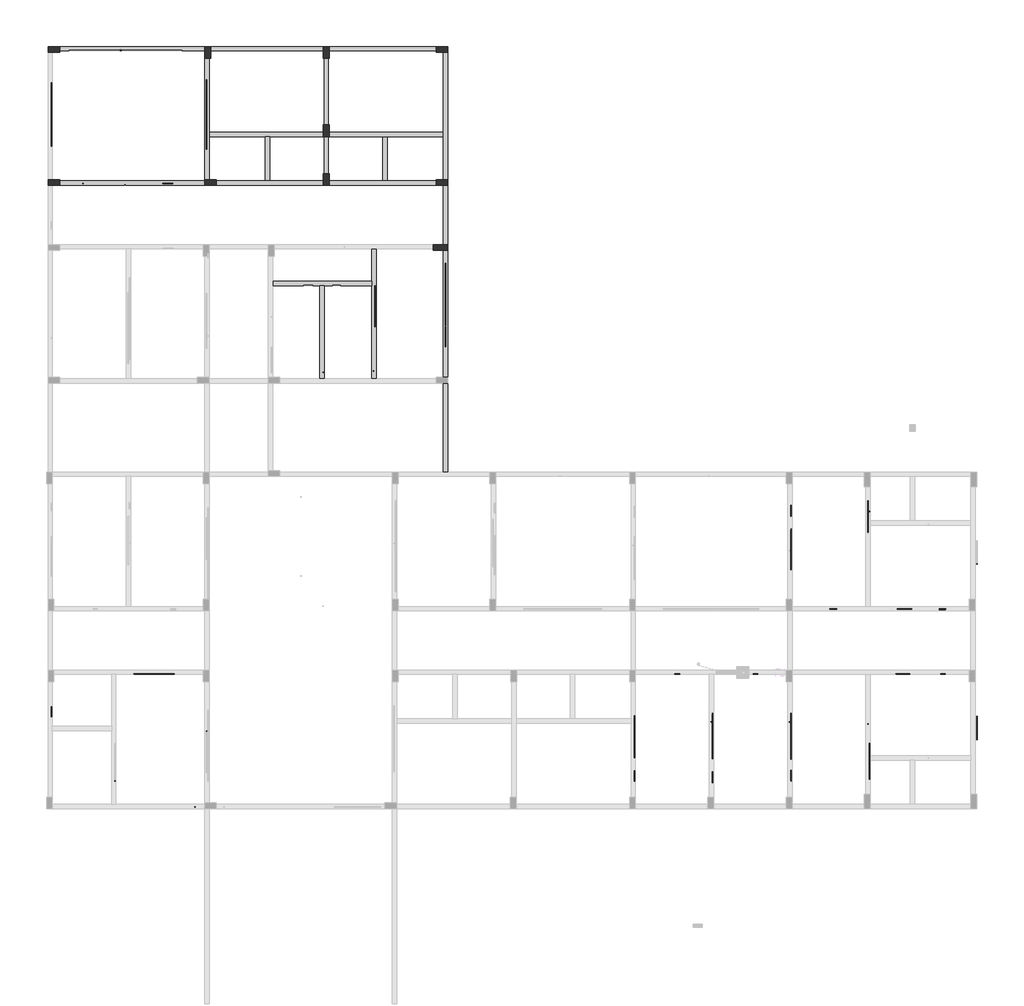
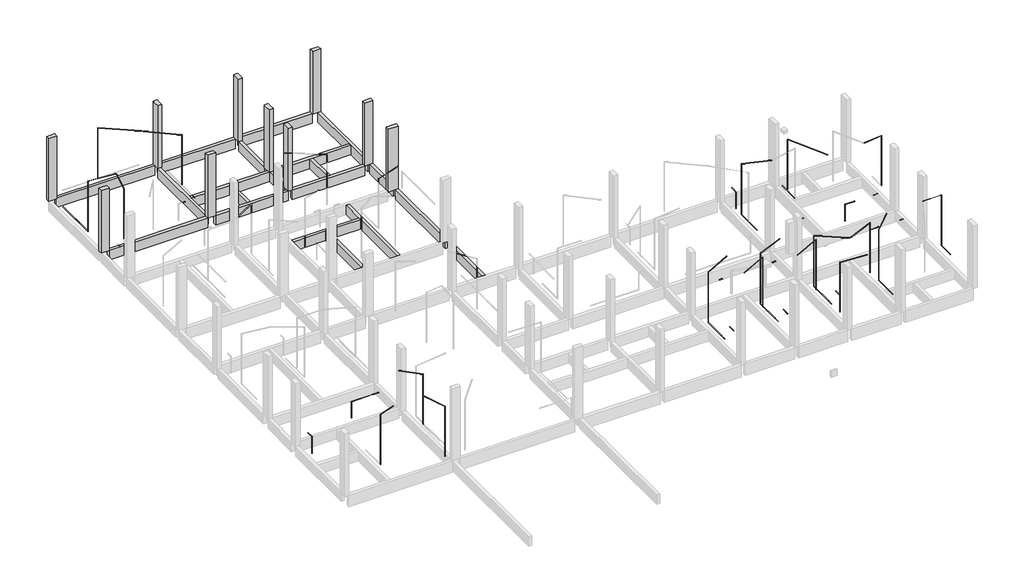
# One storey, part 3 of 4: 45 cable carrier segments, 11 beams, 10 columns.
"""IFC4 building model written with IfcOpenShell, lengths in millimetres."""

from ifc_helpers import new_model, si_unit, frame, origin, place, context, project, spatial, polyline, outline, extrude, faceted_brep, transform, mapped, element, save
from components import el1_el100_e79a3072, el10_el113_36675287, el14_el114_702ad4f7, el2_el101_1b8d6740, el24_el118_48040a78, el25_el12_05267416, el26_el121_f01eb2d3, el29_el122_15501611, el3_el102_fbad8927, el30_el123_b5c9b7e5, el31_el124_8efc11f5, el32_el125_98d39b4c, el35_el129_0dc89ffc, el39_el13_a97d6b42, el4_el103_70ae6426, el40_el131_f582b128, el41_el132_4a7a4d96, el42_el133_466f9d78, el43_el134_258edfdb, el47_el135_66c54992, el48_el139_08f326e0, el5_el104_b8869724, el55_el141_fa197d17, el56_el142_58090826, el57_el143_878d4ac9, el58_el144_c64af32f, el59_el145_87ae16ea, el6_el105_977d746f, el60_el15_bd98858c, el61_el150_23043934, el65_el151_dc321eb8, el67_el152_cc463a7e, el68_el153_5135b2cc, el69_el154_8347e9b6, el7_el109_4a5f97cc, el70_el155_bf3edad0, el73_el16_b7d81b3a, el8_el11_be719dc9, el81_el17_a5bba89e, el82_el172_23e03074, el83_el173_6038ebd6, el84_el174_77af81ce, el85_el175_2161bc5c, el88_el176_837a4fff, el9_el110_13ecc65c

model = new_model("IFC4")

# Units and contexts
model_context = context("Model", 3, world=origin())
ifc_project = project(units=[si_unit("LENGTHUNIT", "METRE", prefix="MILLI")], contexts=[model_context])

# Site, building, storey
site = spatial("IfcSite", under=ifc_project)
building = spatial("IfcBuilding", under=site)
storey = spatial("IfcBuildingStorey", under=building, Name="BALDRAME", Elevation=1500.0)

# Beams
placement = place(None, origin())
element("IfcBeam", 1, ObjectType="TQS - Viga retangular : 15,0 x 50,0", at=placement, inside=storey, context=model_context, shape_type="SweptSolid", body=[
    extrude(outline(polyline([(13130.0, 25800.0), (13130.0, 25650.0), (9515.0, 25650.0), (9515.0, 25800.0), (13130.0, 25800.0)])), frame((0.0, 0.0, 1000.0), z_axis=(0.0, 0.0, 1.0), x_axis=(1.0, 0.0, 0.0)), (0.0, 0.0, 1.0), 500.0),
    extrude(outline(polyline([(5300.0, 25800.0), (5300.0, 25650.0), (400.0, 25650.0), (400.0, 25800.0), (5300.0, 25800.0)])), frame((0.0, 0.0, 1000.0), z_axis=(0.0, 0.0, 1.0), x_axis=(1.0, 0.0, 0.0)), (0.0, 0.0, 1.0), 500.0),
    extrude(outline(polyline([(5500.0, 25650.0), (5500.0, 25800.0), (9315.0, 25800.0), (9315.0, 25650.0), (5500.0, 25650.0)])), frame((0.0, 0.0, 1000.0), z_axis=(0.0, 0.0, 1.0), x_axis=(1.0, 0.0, 0.0)), (0.0, 0.0, 1.0), 500.0),
])
element("IfcBeam", 2, ObjectType="TQS - Viga retangular : 15,0 x 50,0", at=placement, inside=storey, context=model_context, shape_type="Brep", body=[
    faceted_brep([(13130.0, 21100.0, 1500.0), (13130.0, 21250.0, 1500.0), (11480.0, 21250.0, 1500.0), (11330.0, 21250.0, 1500.0), (9515.0, 21250.0, 1500.0), (9515.0, 21100.0, 1500.0), (13130.0, 21100.0, 1000.0), (9515.0, 21100.0, 1000.0), (13130.0, 21250.0, 1000.0), (9515.0, 21250.0, 1000.0), (11330.0, 21250.0, 1000.0), (11480.0, 21250.0, 1000.0)], [[[0, 1, 2, 3, 4, 5]], [[6, 0, 5, 7]], [[8, 6, 7, 9, 10, 11]], [[1, 8, 11, 10, 9, 4, 3, 2]], [[1, 0, 6, 8]], [[5, 4, 9, 7]]]),
    faceted_brep([(400.0, 21100.0, 1500.0), (400.0, 21250.0, 1500.0), (400.0, 21250.0, 1000.0), (400.0, 21100.0, 1000.0), (5300.0, 21250.0, 1500.0), (5300.0, 21100.0, 1500.0), (5300.0, 21100.0, 1000.0), (5300.0, 21250.0, 1000.0)], [[[0, 1, 2, 3]], [[4, 5, 6, 7]], [[1, 0, 5, 4]], [[0, 3, 6, 5]], [[3, 2, 7, 6]], [[2, 1, 4, 7]]]),
    faceted_brep([(5700.0, 21100.0, 1500.0), (5700.0, 21250.0, 1500.0), (5700.0, 21250.0, 1000.0), (5700.0, 21100.0, 1000.0), (9315.0, 21250.0, 1500.0), (9315.0, 21100.0, 1500.0), (9315.0, 21100.0, 1000.0), (9315.0, 21250.0, 1000.0), (7500.0, 21250.0, 1500.0), (7350.0, 21250.0, 1500.0), (7350.0, 21250.0, 1000.0), (7500.0, 21250.0, 1000.0)], [[[0, 1, 2, 3]], [[4, 5, 6, 7]], [[1, 0, 5, 4, 8, 9]], [[0, 3, 6, 5]], [[3, 2, 10, 11, 7, 6]], [[2, 1, 9, 8, 4, 7, 11, 10]]]),
])
element("IfcBeam", 3, ObjectType="TQS - Viga retangular : 15,0 x 50,0", at=placement, inside=storey, context=model_context, shape_type="Brep", body=[
    faceted_brep([(5300.0, 21300.0, 1500.0), (5450.0, 21300.0, 1500.0), (5450.0, 22750.0, 1500.0), (5450.0, 22900.0, 1500.0), (5450.0, 25400.0, 1500.0), (5300.0, 25400.0, 1500.0), (5450.0, 21300.0, 1000.0), (5450.0, 22750.0, 1000.0), (5450.0, 22900.0, 1000.0), (5450.0, 25400.0, 1000.0), (5300.0, 21300.0, 1000.0), (5300.0, 25400.0, 1000.0)], [[[0, 1, 2, 3, 4, 5]], [[1, 6, 7, 8, 9, 4, 3, 2]], [[6, 10, 11, 9, 8, 7]], [[10, 0, 5, 11]], [[1, 0, 10, 6]], [[5, 4, 9, 11]]]),
])
element("IfcBeam", 4, ObjectType="TQS - Viga retangular : 15,0 x 50,0", at=placement, inside=storey, context=model_context, shape_type="SweptSolid", body=[
    extrude(outline(polyline([(9340.0, 25400.0), (9490.0, 25400.0), (9490.0, 23150.0), (9340.0, 23150.0), (9340.0, 25400.0)])), frame((0.0, 0.0, 1000.0), z_axis=(0.0, 0.0, 1.0), x_axis=(1.0, 0.0, 0.0)), (0.0, 0.0, 1.0), 500.0),
    extrude(outline(polyline([(9490.0, 21500.0), (9340.0, 21500.0), (9340.0, 22750.0), (9490.0, 22750.0), (9490.0, 21500.0)])), frame((0.0, 0.0, 1000.0), z_axis=(0.0, 0.0, 1.0), x_axis=(1.0, 0.0, 0.0)), (0.0, 0.0, 1.0), 500.0),
])
element("IfcBeam", 5, ObjectType="TQS - Viga retangular : 15,0 x 50,0", at=placement, inside=storey, context=model_context, shape_type="Brep", body=[
    faceted_brep([(13380.0, 21300.0, 1500.0), (13530.0, 21300.0, 1500.0), (13530.0, 25600.0, 1500.0), (13380.0, 25600.0, 1500.0), (13380.0, 22900.0, 1500.0), (13380.0, 22750.0, 1500.0), (13530.0, 21300.0, 1000.0), (13530.0, 25600.0, 1000.0), (13380.0, 21300.0, 1000.0), (13380.0, 22750.0, 1000.0), (13380.0, 22900.0, 1000.0), (13380.0, 25600.0, 1000.0)], [[[0, 1, 2, 3, 4, 5]], [[1, 6, 7, 2]], [[6, 8, 9, 10, 11, 7]], [[8, 0, 5, 4, 3, 11, 10, 9]], [[1, 0, 8, 6]], [[3, 2, 7, 11]]]),
    faceted_brep([(13380.0, 14400.0, 1500.0), (13530.0, 14400.0, 1500.0), (13530.0, 14400.0, 1000.0), (13380.0, 14400.0, 1000.0), (13380.0, 11400.0, 1500.0), (13530.0, 11400.0, 1500.0), (13530.0, 11400.0, 1000.0), (13380.0, 11400.0, 1000.0)], [[[0, 1, 2, 3]], [[1, 0, 4, 5]], [[2, 1, 5, 6]], [[3, 2, 6, 7]], [[0, 3, 7, 4]], [[5, 4, 7, 6]]]),
    faceted_brep([(13530.0, 14600.0, 1500.0), (13380.0, 14600.0, 1500.0), (13380.0, 14600.0, 1000.0), (13530.0, 14600.0, 1000.0), (13380.0, 18900.0, 1500.0), (13530.0, 18900.0, 1500.0), (13530.0, 18900.0, 1000.0), (13380.0, 18900.0, 1000.0)], [[[0, 1, 2, 3]], [[4, 5, 6, 7]], [[1, 0, 5, 4]], [[0, 3, 6, 5]], [[3, 2, 7, 6]], [[2, 1, 4, 7]]]),
    faceted_brep([(13530.0, 19100.0, 1500.0), (13380.0, 19100.0, 1500.0), (13380.0, 19100.0, 1000.0), (13530.0, 19100.0, 1000.0), (13380.0, 21100.0, 1500.0), (13530.0, 21100.0, 1500.0), (13530.0, 21100.0, 1000.0), (13380.0, 21100.0, 1000.0)], [[[0, 1, 2, 3]], [[4, 5, 6, 7]], [[1, 0, 5, 4]], [[0, 3, 6, 5]], [[3, 2, 7, 6]], [[2, 1, 4, 7]]]),
])
element("IfcBeam", 6, ObjectType="TQS - Viga retangular : 15,0 x 50,0", at=placement, inside=storey, context=model_context, shape_type="Brep", body=[
    faceted_brep([(9515.0, 22900.0, 1500.0), (9515.0, 22750.0, 1500.0), (11330.0, 22750.0, 1500.0), (11480.0, 22750.0, 1500.0), (13380.0, 22750.0, 1500.0), (13380.0, 22900.0, 1500.0), (9515.0, 22750.0, 1000.0), (11330.0, 22750.0, 1000.0), (11480.0, 22750.0, 1000.0), (13380.0, 22750.0, 1000.0), (9515.0, 22900.0, 1000.0), (13380.0, 22900.0, 1000.0)], [[[0, 1, 2, 3, 4, 5]], [[1, 6, 7, 8, 9, 4, 3, 2]], [[6, 10, 11, 9, 8, 7]], [[10, 0, 5, 11]], [[1, 0, 10, 6]], [[5, 4, 9, 11]]]),
    faceted_brep([(9315.0, 22900.0, 1500.0), (9315.0, 22750.0, 1500.0), (9315.0, 22750.0, 1000.0), (9315.0, 22900.0, 1000.0), (5450.0, 22900.0, 1500.0), (5450.0, 22750.0, 1500.0), (7350.0, 22750.0, 1500.0), (7500.0, 22750.0, 1500.0), (5450.0, 22750.0, 1000.0), (7350.0, 22750.0, 1000.0), (7500.0, 22750.0, 1000.0), (5450.0, 22900.0, 1000.0)], [[[0, 1, 2, 3]], [[1, 0, 4, 5, 6, 7]], [[2, 1, 7, 6, 5, 8, 9, 10]], [[3, 2, 10, 9, 8, 11]], [[0, 3, 11, 4]], [[5, 4, 11, 8]]]),
])
element("IfcBeam", 7, ObjectType="TQS - Viga retangular : 15,0 x 50,0", at=placement, inside=storey, context=model_context, shape_type="SweptSolid", body=[
    extrude(outline(polyline([(7500.0, 21250.0), (7350.0, 21250.0), (7350.0, 22750.0), (7500.0, 22750.0), (7500.0, 21250.0)])), frame((0.0, 0.0, 1000.0), z_axis=(0.0, 0.0, 1.0), x_axis=(1.0, 0.0, 0.0)), (0.0, 0.0, 1.0), 500.0),
])
element("IfcBeam", 8, ObjectType="TQS - Viga retangular : 15,0 x 50,0", at=placement, inside=storey, context=model_context, shape_type="SweptSolid", body=[
    extrude(outline(polyline([(11480.0, 21250.0), (11330.0, 21250.0), (11330.0, 22750.0), (11480.0, 22750.0), (11480.0, 21250.0)])), frame((0.0, 0.0, 1000.0), z_axis=(0.0, 0.0, 1.0), x_axis=(1.0, 0.0, 0.0)), (0.0, 0.0, 1.0), 500.0),
])
element("IfcBeam", 9, ObjectType="TQS - Viga retangular : 15,0 x 50,0", at=placement, inside=storey, context=model_context, shape_type="Brep", body=[
    faceted_brep([(11100.0, 18950.0, 1500.0), (10950.0, 18950.0, 1500.0), (10950.0, 17850.0, 1500.0), (10950.0, 17700.0, 1500.0), (10950.0, 14550.0, 1500.0), (11100.0, 14550.0, 1500.0), (11100.0, 18950.0, 1000.0), (11100.0, 14550.0, 1000.0), (10950.0, 18950.0, 1000.0), (10950.0, 14550.0, 1000.0), (10950.0, 17700.0, 1000.0), (10950.0, 17850.0, 1000.0)], [[[0, 1, 2, 3, 4, 5]], [[6, 0, 5, 7]], [[8, 6, 7, 9, 10, 11]], [[1, 8, 11, 10, 9, 4, 3, 2]], [[1, 0, 6, 8]], [[5, 4, 9, 7]]]),
])
element("IfcBeam", 10, ObjectType="TQS - Viga retangular : 15,0 x 50,0", at=placement, inside=storey, context=model_context, shape_type="Brep", body=[
    faceted_brep([(7600.0, 17850.0, 1500.0), (7600.0, 17700.0, 1500.0), (9200.0, 17700.0, 1500.0), (9350.0, 17700.0, 1500.0), (10950.0, 17700.0, 1500.0), (10950.0, 17850.0, 1500.0), (7600.0, 17700.0, 1000.0), (9200.0, 17700.0, 1000.0), (9350.0, 17700.0, 1000.0), (10950.0, 17700.0, 1000.0), (7600.0, 17850.0, 1000.0), (10950.0, 17850.0, 1000.0)], [[[0, 1, 2, 3, 4, 5]], [[1, 6, 7, 8, 9, 4, 3, 2]], [[6, 10, 11, 9, 8, 7]], [[10, 0, 5, 11]], [[1, 0, 10, 6]], [[5, 4, 9, 11]]]),
])
element("IfcBeam", 11, ObjectType="TQS - Viga retangular : 15,0 x 50,0", at=placement, inside=storey, context=model_context, shape_type="SweptSolid", body=[
    extrude(outline(polyline([(9350.0, 14550.0), (9200.0, 14550.0), (9200.0, 17700.0), (9350.0, 17700.0), (9350.0, 14550.0)])), frame((0.0, 0.0, 1000.0), z_axis=(0.0, 0.0, 1.0), x_axis=(1.0, 0.0, 0.0)), (0.0, 0.0, 1.0), 500.0),
])

# Cable carrier segments
el1_el100_shape = el1_el100_e79a3072(model_context)
element("IfcCableCarrierSegment", 12, ObjectType="El1 : El100", at=placement, inside=storey, context=model_context, shape_type="MappedRepresentation", body=[
    mapped(el1_el100_shape, transform((0.0, 0.0, 0.0), x_axis=(1.0, 0.0, 0.0), y_axis=(0.0, 1.0, 0.0), z_axis=(0.0, 0.0, 1.0))),
])
el10_el113_shape = el10_el113_36675287(model_context)
element("IfcCableCarrierSegment", 13, ObjectType="El10 : El113", at=placement, inside=storey, context=model_context, shape_type="MappedRepresentation", body=[
    mapped(el10_el113_shape, transform((0.0, 0.0, 0.0), x_axis=(1.0, 0.0, 0.0), y_axis=(0.0, 1.0, 0.0), z_axis=(0.0, 0.0, 1.0))),
])
el14_el114_shape = el14_el114_702ad4f7(model_context)
element("IfcCableCarrierSegment", 14, ObjectType="El14 : El114", at=placement, inside=storey, context=model_context, shape_type="MappedRepresentation", body=[
    mapped(el14_el114_shape, transform((0.0, 0.0, 0.0), x_axis=(1.0, 0.0, 0.0), y_axis=(0.0, 1.0, 0.0), z_axis=(0.0, 0.0, 1.0))),
])
el2_el101_shape = el2_el101_1b8d6740(model_context)
element("IfcCableCarrierSegment", 15, ObjectType="El2 : El101", at=placement, inside=storey, context=model_context, shape_type="MappedRepresentation", body=[
    mapped(el2_el101_shape, transform((0.0, 0.0, 0.0), x_axis=(1.0, 0.0, 0.0), y_axis=(0.0, 1.0, 0.0), z_axis=(0.0, 0.0, 1.0))),
])
el24_el118_shape = el24_el118_48040a78(model_context)
element("IfcCableCarrierSegment", 16, ObjectType="El24 : El118", at=placement, inside=storey, context=model_context, shape_type="MappedRepresentation", body=[
    mapped(el24_el118_shape, transform((0.0, 0.0, 0.0), x_axis=(1.0, 0.0, 0.0), y_axis=(0.0, 1.0, 0.0), z_axis=(0.0, 0.0, 1.0))),
])
el25_el12_shape = el25_el12_05267416(model_context)
element("IfcCableCarrierSegment", 17, ObjectType="El25 : El12", at=placement, inside=storey, context=model_context, shape_type="MappedRepresentation", body=[
    mapped(el25_el12_shape, transform((0.0, 0.0, 0.0), x_axis=(1.0, 0.0, 0.0), y_axis=(0.0, 1.0, 0.0), z_axis=(0.0, 0.0, 1.0))),
])
el26_el121_shape = el26_el121_f01eb2d3(model_context)
element("IfcCableCarrierSegment", 18, ObjectType="El26 : El121", at=placement, inside=storey, context=model_context, shape_type="MappedRepresentation", body=[
    mapped(el26_el121_shape, transform((0.0, 0.0, 0.0), x_axis=(1.0, 0.0, 0.0), y_axis=(0.0, 1.0, 0.0), z_axis=(0.0, 0.0, 1.0))),
])
el29_el122_shape = el29_el122_15501611(model_context)
element("IfcCableCarrierSegment", 19, ObjectType="El29 : El122", at=placement, inside=storey, context=model_context, shape_type="MappedRepresentation", body=[
    mapped(el29_el122_shape, transform((0.0, 0.0, 0.0), x_axis=(1.0, 0.0, 0.0), y_axis=(0.0, 1.0, 0.0), z_axis=(0.0, 0.0, 1.0))),
])
el3_el102_shape = el3_el102_fbad8927(model_context)
element("IfcCableCarrierSegment", 20, ObjectType="El3 : El102", at=placement, inside=storey, context=model_context, shape_type="MappedRepresentation", body=[
    mapped(el3_el102_shape, transform((0.0, 0.0, 0.0), x_axis=(1.0, 0.0, 0.0), y_axis=(0.0, 1.0, 0.0), z_axis=(0.0, 0.0, 1.0))),
])
el30_el123_shape = el30_el123_b5c9b7e5(model_context)
element("IfcCableCarrierSegment", 21, ObjectType="El30 : El123", at=placement, inside=storey, context=model_context, shape_type="MappedRepresentation", body=[
    mapped(el30_el123_shape, transform((0.0, 0.0, 0.0), x_axis=(1.0, 0.0, 0.0), y_axis=(0.0, 1.0, 0.0), z_axis=(0.0, 0.0, 1.0))),
])
el31_el124_shape = el31_el124_8efc11f5(model_context)
element("IfcCableCarrierSegment", 22, ObjectType="El31 : El124", at=placement, inside=storey, context=model_context, shape_type="MappedRepresentation", body=[
    mapped(el31_el124_shape, transform((0.0, 0.0, 0.0), x_axis=(1.0, 0.0, 0.0), y_axis=(0.0, 1.0, 0.0), z_axis=(0.0, 0.0, 1.0))),
])
el32_el125_shape = el32_el125_98d39b4c(model_context)
element("IfcCableCarrierSegment", 23, ObjectType="El32 : El125", at=placement, inside=storey, context=model_context, shape_type="MappedRepresentation", body=[
    mapped(el32_el125_shape, transform((0.0, 0.0, 0.0), x_axis=(1.0, 0.0, 0.0), y_axis=(0.0, 1.0, 0.0), z_axis=(0.0, 0.0, 1.0))),
])
el35_el129_shape = el35_el129_0dc89ffc(model_context)
element("IfcCableCarrierSegment", 24, ObjectType="El35 : El129", at=placement, inside=storey, context=model_context, shape_type="MappedRepresentation", body=[
    mapped(el35_el129_shape, transform((0.0, 0.0, 0.0), x_axis=(1.0, 0.0, 0.0), y_axis=(0.0, 1.0, 0.0), z_axis=(0.0, 0.0, 1.0))),
])
el39_el13_shape = el39_el13_a97d6b42(model_context)
element("IfcCableCarrierSegment", 25, ObjectType="El39 : El13", at=placement, inside=storey, context=model_context, shape_type="MappedRepresentation", body=[
    mapped(el39_el13_shape, transform((0.0, 0.0, 0.0), x_axis=(1.0, 0.0, 0.0), y_axis=(0.0, 1.0, 0.0), z_axis=(0.0, 0.0, 1.0))),
])
el4_el103_shape = el4_el103_70ae6426(model_context)
element("IfcCableCarrierSegment", 26, ObjectType="El4 : El103", at=placement, inside=storey, context=model_context, shape_type="MappedRepresentation", body=[
    mapped(el4_el103_shape, transform((0.0, 0.0, 0.0), x_axis=(1.0, 0.0, 0.0), y_axis=(0.0, 1.0, 0.0), z_axis=(0.0, 0.0, 1.0))),
])
el40_el131_shape = el40_el131_f582b128(model_context)
element("IfcCableCarrierSegment", 27, ObjectType="El40 : El131", at=placement, inside=storey, context=model_context, shape_type="MappedRepresentation", body=[
    mapped(el40_el131_shape, transform((0.0, 0.0, 0.0), x_axis=(1.0, 0.0, 0.0), y_axis=(0.0, 1.0, 0.0), z_axis=(0.0, 0.0, 1.0))),
])
el41_el132_shape = el41_el132_4a7a4d96(model_context)
element("IfcCableCarrierSegment", 28, ObjectType="El41 : El132", at=placement, inside=storey, context=model_context, shape_type="MappedRepresentation", body=[
    mapped(el41_el132_shape, transform((0.0, 0.0, 0.0), x_axis=(1.0, 0.0, 0.0), y_axis=(0.0, 1.0, 0.0), z_axis=(0.0, 0.0, 1.0))),
])
el42_el133_shape = el42_el133_466f9d78(model_context)
element("IfcCableCarrierSegment", 29, ObjectType="El42 : El133", at=placement, inside=storey, context=model_context, shape_type="MappedRepresentation", body=[
    mapped(el42_el133_shape, transform((0.0, 0.0, 0.0), x_axis=(1.0, 0.0, 0.0), y_axis=(0.0, 1.0, 0.0), z_axis=(0.0, 0.0, 1.0))),
])
el43_el134_shape = el43_el134_258edfdb(model_context)
element("IfcCableCarrierSegment", 30, ObjectType="El43 : El134", at=placement, inside=storey, context=model_context, shape_type="MappedRepresentation", body=[
    mapped(el43_el134_shape, transform((0.0, 0.0, 0.0), x_axis=(1.0, 0.0, 0.0), y_axis=(0.0, 1.0, 0.0), z_axis=(0.0, 0.0, 1.0))),
])
el47_el135_shape = el47_el135_66c54992(model_context)
element("IfcCableCarrierSegment", 31, ObjectType="El47 : El135", at=placement, inside=storey, context=model_context, shape_type="MappedRepresentation", body=[
    mapped(el47_el135_shape, transform((0.0, 0.0, 0.0), x_axis=(1.0, 0.0, 0.0), y_axis=(0.0, 1.0, 0.0), z_axis=(0.0, 0.0, 1.0))),
])
el48_el139_shape = el48_el139_08f326e0(model_context)
element("IfcCableCarrierSegment", 32, ObjectType="El48 : El139", at=placement, inside=storey, context=model_context, shape_type="MappedRepresentation", body=[
    mapped(el48_el139_shape, transform((0.0, 0.0, 0.0), x_axis=(1.0, 0.0, 0.0), y_axis=(0.0, 1.0, 0.0), z_axis=(0.0, 0.0, 1.0))),
])
el5_el104_shape = el5_el104_b8869724(model_context)
element("IfcCableCarrierSegment", 33, ObjectType="El5 : El104", at=placement, inside=storey, context=model_context, shape_type="MappedRepresentation", body=[
    mapped(el5_el104_shape, transform((0.0, 0.0, 0.0), x_axis=(1.0, 0.0, 0.0), y_axis=(0.0, 1.0, 0.0), z_axis=(0.0, 0.0, 1.0))),
])
el55_el141_shape = el55_el141_fa197d17(model_context)
element("IfcCableCarrierSegment", 34, ObjectType="El55 : El141", at=placement, inside=storey, context=model_context, shape_type="MappedRepresentation", body=[
    mapped(el55_el141_shape, transform((0.0, 0.0, 0.0), x_axis=(1.0, 0.0, 0.0), y_axis=(0.0, 1.0, 0.0), z_axis=(0.0, 0.0, 1.0))),
])
el56_el142_shape = el56_el142_58090826(model_context)
element("IfcCableCarrierSegment", 35, ObjectType="El56 : El142", at=placement, inside=storey, context=model_context, shape_type="MappedRepresentation", body=[
    mapped(el56_el142_shape, transform((0.0, 0.0, 0.0), x_axis=(1.0, 0.0, 0.0), y_axis=(0.0, 1.0, 0.0), z_axis=(0.0, 0.0, 1.0))),
])
el57_el143_shape = el57_el143_878d4ac9(model_context)
element("IfcCableCarrierSegment", 36, ObjectType="El57 : El143", at=placement, inside=storey, context=model_context, shape_type="MappedRepresentation", body=[
    mapped(el57_el143_shape, transform((0.0, 0.0, 0.0), x_axis=(1.0, 0.0, 0.0), y_axis=(0.0, 1.0, 0.0), z_axis=(0.0, 0.0, 1.0))),
])
el58_el144_shape = el58_el144_c64af32f(model_context)
element("IfcCableCarrierSegment", 37, ObjectType="El58 : El144", at=placement, inside=storey, context=model_context, shape_type="MappedRepresentation", body=[
    mapped(el58_el144_shape, transform((0.0, 0.0, 0.0), x_axis=(1.0, 0.0, 0.0), y_axis=(0.0, 1.0, 0.0), z_axis=(0.0, 0.0, 1.0))),
])
el59_el145_shape = el59_el145_87ae16ea(model_context)
element("IfcCableCarrierSegment", 38, ObjectType="El59 : El145", at=placement, inside=storey, context=model_context, shape_type="MappedRepresentation", body=[
    mapped(el59_el145_shape, transform((0.0, 0.0, 0.0), x_axis=(1.0, 0.0, 0.0), y_axis=(0.0, 1.0, 0.0), z_axis=(0.0, 0.0, 1.0))),
])
el6_el105_shape = el6_el105_977d746f(model_context)
element("IfcCableCarrierSegment", 39, ObjectType="El6 : El105", at=placement, inside=storey, context=model_context, shape_type="MappedRepresentation", body=[
    mapped(el6_el105_shape, transform((0.0, 0.0, 0.0), x_axis=(1.0, 0.0, 0.0), y_axis=(0.0, 1.0, 0.0), z_axis=(0.0, 0.0, 1.0))),
])
el60_el15_shape = el60_el15_bd98858c(model_context)
element("IfcCableCarrierSegment", 40, ObjectType="El60 : El15", at=placement, inside=storey, context=model_context, shape_type="MappedRepresentation", body=[
    mapped(el60_el15_shape, transform((0.0, 0.0, 0.0), x_axis=(1.0, 0.0, 0.0), y_axis=(0.0, 1.0, 0.0), z_axis=(0.0, 0.0, 1.0))),
])
el61_el150_shape = el61_el150_23043934(model_context)
element("IfcCableCarrierSegment", 41, ObjectType="El61 : El150", at=placement, inside=storey, context=model_context, shape_type="MappedRepresentation", body=[
    mapped(el61_el150_shape, transform((0.0, 0.0, 0.0), x_axis=(1.0, 0.0, 0.0), y_axis=(0.0, 1.0, 0.0), z_axis=(0.0, 0.0, 1.0))),
])
el65_el151_shape = el65_el151_dc321eb8(model_context)
element("IfcCableCarrierSegment", 42, ObjectType="El65 : El151", at=placement, inside=storey, context=model_context, shape_type="MappedRepresentation", body=[
    mapped(el65_el151_shape, transform((0.0, 0.0, 0.0), x_axis=(1.0, 0.0, 0.0), y_axis=(0.0, 1.0, 0.0), z_axis=(0.0, 0.0, 1.0))),
])
el67_el152_shape = el67_el152_cc463a7e(model_context)
element("IfcCableCarrierSegment", 43, ObjectType="El67 : El152", at=placement, inside=storey, context=model_context, shape_type="MappedRepresentation", body=[
    mapped(el67_el152_shape, transform((0.0, 0.0, 0.0), x_axis=(1.0, 0.0, 0.0), y_axis=(0.0, 1.0, 0.0), z_axis=(0.0, 0.0, 1.0))),
])
el68_el153_shape = el68_el153_5135b2cc(model_context)
element("IfcCableCarrierSegment", 44, ObjectType="El68 : El153", at=placement, inside=storey, context=model_context, shape_type="MappedRepresentation", body=[
    mapped(el68_el153_shape, transform((0.0, 0.0, 0.0), x_axis=(1.0, 0.0, 0.0), y_axis=(0.0, 1.0, 0.0), z_axis=(0.0, 0.0, 1.0))),
])
el69_el154_shape = el69_el154_8347e9b6(model_context)
element("IfcCableCarrierSegment", 45, ObjectType="El69 : El154", at=placement, inside=storey, context=model_context, shape_type="MappedRepresentation", body=[
    mapped(el69_el154_shape, transform((0.0, 0.0, 0.0), x_axis=(1.0, 0.0, 0.0), y_axis=(0.0, 1.0, 0.0), z_axis=(0.0, 0.0, 1.0))),
])
el7_el109_shape = el7_el109_4a5f97cc(model_context)
element("IfcCableCarrierSegment", 46, ObjectType="El7 : El109", at=placement, inside=storey, context=model_context, shape_type="MappedRepresentation", body=[
    mapped(el7_el109_shape, transform((0.0, 0.0, 0.0), x_axis=(1.0, 0.0, 0.0), y_axis=(0.0, 1.0, 0.0), z_axis=(0.0, 0.0, 1.0))),
])
el70_el155_shape = el70_el155_bf3edad0(model_context)
element("IfcCableCarrierSegment", 47, ObjectType="El70 : El155", at=placement, inside=storey, context=model_context, shape_type="MappedRepresentation", body=[
    mapped(el70_el155_shape, transform((0.0, 0.0, 0.0), x_axis=(1.0, 0.0, 0.0), y_axis=(0.0, 1.0, 0.0), z_axis=(0.0, 0.0, 1.0))),
])
el73_el16_shape = el73_el16_b7d81b3a(model_context)
element("IfcCableCarrierSegment", 48, ObjectType="El73 : El16", at=placement, inside=storey, context=model_context, shape_type="MappedRepresentation", body=[
    mapped(el73_el16_shape, transform((0.0, 0.0, 0.0), x_axis=(1.0, 0.0, 0.0), y_axis=(0.0, 1.0, 0.0), z_axis=(0.0, 0.0, 1.0))),
])
el8_el11_shape = el8_el11_be719dc9(model_context)
element("IfcCableCarrierSegment", 49, ObjectType="El8 : El11", at=placement, inside=storey, context=model_context, shape_type="MappedRepresentation", body=[
    mapped(el8_el11_shape, transform((0.0, 0.0, 0.0), x_axis=(1.0, 0.0, 0.0), y_axis=(0.0, 1.0, 0.0), z_axis=(0.0, 0.0, 1.0))),
])
el81_el17_shape = el81_el17_a5bba89e(model_context)
element("IfcCableCarrierSegment", 50, ObjectType="El81 : El17", at=placement, inside=storey, context=model_context, shape_type="MappedRepresentation", body=[
    mapped(el81_el17_shape, transform((0.0, 0.0, 0.0), x_axis=(1.0, 0.0, 0.0), y_axis=(0.0, 1.0, 0.0), z_axis=(0.0, 0.0, 1.0))),
])
el82_el172_shape = el82_el172_23e03074(model_context)
element("IfcCableCarrierSegment", 51, ObjectType="El82 : El172", at=placement, inside=storey, context=model_context, shape_type="MappedRepresentation", body=[
    mapped(el82_el172_shape, transform((0.0, 0.0, 0.0), x_axis=(1.0, 0.0, 0.0), y_axis=(0.0, 1.0, 0.0), z_axis=(0.0, 0.0, 1.0))),
])
el83_el173_shape = el83_el173_6038ebd6(model_context)
element("IfcCableCarrierSegment", 52, ObjectType="El83 : El173", at=placement, inside=storey, context=model_context, shape_type="MappedRepresentation", body=[
    mapped(el83_el173_shape, transform((0.0, 0.0, 0.0), x_axis=(1.0, 0.0, 0.0), y_axis=(0.0, 1.0, 0.0), z_axis=(0.0, 0.0, 1.0))),
])
el84_el174_shape = el84_el174_77af81ce(model_context)
element("IfcCableCarrierSegment", 53, ObjectType="El84 : El174", at=placement, inside=storey, context=model_context, shape_type="MappedRepresentation", body=[
    mapped(el84_el174_shape, transform((0.0, 0.0, 0.0), x_axis=(1.0, 0.0, 0.0), y_axis=(0.0, 1.0, 0.0), z_axis=(0.0, 0.0, 1.0))),
])
el85_el175_shape = el85_el175_2161bc5c(model_context)
element("IfcCableCarrierSegment", 54, ObjectType="El85 : El175", at=placement, inside=storey, context=model_context, shape_type="MappedRepresentation", body=[
    mapped(el85_el175_shape, transform((0.0, 0.0, 0.0), x_axis=(1.0, 0.0, 0.0), y_axis=(0.0, 1.0, 0.0), z_axis=(0.0, 0.0, 1.0))),
])
el88_el176_shape = el88_el176_837a4fff(model_context)
element("IfcCableCarrierSegment", 55, ObjectType="El88 : El176", at=placement, inside=storey, context=model_context, shape_type="MappedRepresentation", body=[
    mapped(el88_el176_shape, transform((0.0, 0.0, 0.0), x_axis=(1.0, 0.0, 0.0), y_axis=(0.0, 1.0, 0.0), z_axis=(0.0, 0.0, 1.0))),
])
el9_el110_shape = el9_el110_13ecc65c(model_context)
element("IfcCableCarrierSegment", 56, ObjectType="El9 : El110", at=placement, inside=storey, context=model_context, shape_type="MappedRepresentation", body=[
    mapped(el9_el110_shape, transform((0.0, 0.0, 0.0), x_axis=(1.0, 0.0, 0.0), y_axis=(0.0, 1.0, 0.0), z_axis=(0.0, 0.0, 1.0))),
])

# Columns
element("IfcColumn", 57, ObjectType="TQS - Pilar retangular : 20,0x40,0", at=placement, inside=storey, context=model_context, shape_type="Brep", body=[
    faceted_brep([(400.0, 21100.0, 1500.0), (0.0, 21100.0, 1500.0), (0.0, 21300.0, 1500.0), (400.0, 21300.0, 1500.0), (400.0, 21100.0, 4250.0), (400.0, 21100.0, 4800.0), (150.0, 21100.0, 4800.0), (0.0, 21100.0, 4800.0), (0.0, 21100.0, 4250.0), (0.0, 21300.0, 4800.0), (0.0, 21300.0, 4600.0), (0.0, 21300.0, 4250.0), (150.0, 21300.0, 4800.0), (400.0, 21300.0, 4800.0), (400.0, 21300.0, 4750.0), (400.0, 21300.0, 4650.0), (400.0, 21250.0, 4800.0)], [[[0, 1, 2, 3]], [[1, 0, 4, 5, 6, 7, 8]], [[2, 1, 8, 7, 9, 10, 11]], [[3, 2, 11, 10, 9, 12, 13, 14, 15]], [[0, 3, 15, 14, 13, 16, 5, 4]], [[7, 6, 5, 16, 13, 12, 9]]]),
])
element("IfcColumn", 58, ObjectType="TQS - Pilar retangular : 20,0x40,0", at=placement, inside=storey, context=model_context, shape_type="Brep", body=[
    faceted_brep([(5700.0, 21100.0, 1500.0), (5300.0, 21100.0, 1500.0), (5300.0, 21300.0, 1500.0), (5700.0, 21300.0, 1500.0), (5700.0, 21100.0, 4250.0), (5700.0, 21100.0, 4800.0), (5300.0, 21100.0, 4800.0), (5300.0, 21100.0, 4250.0), (5300.0, 21250.0, 4800.0), (5300.0, 21300.0, 4800.0), (5300.0, 21300.0, 4250.0), (5450.0, 21300.0, 4800.0), (5700.0, 21300.0, 4800.0), (5700.0, 21300.0, 4750.0), (5700.0, 21250.0, 4800.0)], [[[0, 1, 2, 3]], [[1, 0, 4, 5, 6, 7]], [[2, 1, 7, 6, 8, 9, 10]], [[3, 2, 10, 9, 11, 12, 13]], [[0, 3, 13, 12, 14, 5, 4]], [[6, 5, 14, 12, 11, 9, 8]]]),
])
element("IfcColumn", 59, ObjectType="TQS - Pilar retangular : 20,0x40,0", at=placement, inside=storey, context=model_context, shape_type="Brep", body=[
    faceted_brep([(13530.0, 21100.0, 1500.0), (13130.0, 21100.0, 1500.0), (13130.0, 21300.0, 1500.0), (13530.0, 21300.0, 1500.0), (13530.0, 21100.0, 4250.0), (13530.0, 21100.0, 4800.0), (13380.0, 21100.0, 4800.0), (13130.0, 21100.0, 4800.0), (13130.0, 21100.0, 4250.0), (13130.0, 21250.0, 4800.0), (13130.0, 21300.0, 4800.0), (13130.0, 21300.0, 4750.0), (13380.0, 21300.0, 4800.0), (13530.0, 21300.0, 4800.0), (13530.0, 21300.0, 4250.0)], [[[0, 1, 2, 3]], [[1, 0, 4, 5, 6, 7, 8]], [[2, 1, 8, 7, 9, 10, 11]], [[3, 2, 11, 10, 12, 13, 14]], [[0, 3, 14, 13, 5, 4]], [[7, 6, 5, 13, 12, 10, 9]]]),
])
element("IfcColumn", 60, ObjectType="TQS - Pilar retangular : 20,0x40,0", at=placement, inside=storey, context=model_context, shape_type="Brep", body=[
    faceted_brep([(9315.0, 21100.0, 1500.0), (9315.0, 21500.0, 1500.0), (9515.0, 21500.0, 1500.0), (9515.0, 21100.0, 1500.0), (9315.0, 21100.0, 4250.0), (9315.0, 21100.0, 4800.0), (9315.0, 21250.0, 4800.0), (9315.0, 21500.0, 4800.0), (9315.0, 21500.0, 4750.0), (9315.0, 21500.0, 4650.0), (9340.0, 21500.0, 4800.0), (9490.0, 21500.0, 4800.0), (9515.0, 21500.0, 4800.0), (9515.0, 21500.0, 4750.0), (9515.0, 21500.0, 4650.0), (9515.0, 21250.0, 4800.0), (9515.0, 21100.0, 4800.0), (9515.0, 21100.0, 4250.0)], [[[0, 1, 2, 3]], [[1, 0, 4, 5, 6, 7, 8, 9]], [[2, 1, 9, 8, 7, 10, 11, 12, 13, 14]], [[3, 2, 14, 13, 12, 15, 16, 17]], [[0, 3, 17, 16, 5, 4]], [[5, 16, 15, 12, 11, 10, 7, 6]]]),
])
element("IfcColumn", 61, ObjectType="TQS - Pilar retangular : 20,0x40,0", at=placement, inside=storey, context=model_context, shape_type="Brep", body=[
    faceted_brep([(5300.0, 25400.0, 1500.0), (5300.0, 25800.0, 1500.0), (5500.0, 25800.0, 1500.0), (5500.0, 25400.0, 1500.0), (5300.0, 25400.0, 4250.0), (5300.0, 25400.0, 4800.0), (5300.0, 25650.0, 4800.0), (5300.0, 25800.0, 4800.0), (5300.0, 25800.0, 4250.0), (5500.0, 25800.0, 4800.0), (5500.0, 25800.0, 4250.0), (5500.0, 25650.0, 4800.0), (5500.0, 25400.0, 4800.0), (5500.0, 25400.0, 4750.0), (5500.0, 25400.0, 4650.0), (5450.0, 25400.0, 4800.0)], [[[0, 1, 2, 3]], [[1, 0, 4, 5, 6, 7, 8]], [[2, 1, 8, 7, 9, 10]], [[3, 2, 10, 9, 11, 12, 13, 14]], [[0, 3, 14, 13, 12, 15, 5, 4]], [[7, 6, 5, 15, 12, 11, 9]]]),
])
element("IfcColumn", 62, ObjectType="TQS - Pilar retangular : 20,0x40,0", at=placement, inside=storey, context=model_context, shape_type="Brep", body=[
    faceted_brep([(13130.0, 25800.0, 1500.0), (13530.0, 25800.0, 1500.0), (13530.0, 25600.0, 1500.0), (13130.0, 25600.0, 1500.0), (13130.0, 25800.0, 4250.0), (13130.0, 25800.0, 4800.0), (13530.0, 25800.0, 4800.0), (13530.0, 25600.0, 4800.0), (13530.0, 25600.0, 4250.0), (13380.0, 25600.0, 4800.0), (13130.0, 25600.0, 4800.0), (13130.0, 25600.0, 4750.0), (13130.0, 25600.0, 4650.0), (13130.0, 25650.0, 4800.0)], [[[0, 1, 2, 3]], [[1, 0, 4, 5, 6]], [[2, 1, 6, 7, 8]], [[3, 2, 8, 7, 9, 10, 11, 12]], [[0, 3, 12, 11, 10, 13, 5, 4]], [[6, 5, 13, 10, 9, 7]]]),
])
element("IfcColumn", 63, ObjectType="TQS - Pilar retangular : 20,0x40,0", at=placement, inside=storey, context=model_context, shape_type="Brep", body=[
    faceted_brep([(9315.0, 25400.0, 1500.0), (9315.0, 25800.0, 1500.0), (9515.0, 25800.0, 1500.0), (9515.0, 25400.0, 1500.0), (9315.0, 25400.0, 4650.0), (9315.0, 25400.0, 4750.0), (9315.0, 25400.0, 4800.0), (9315.0, 25650.0, 4800.0), (9315.0, 25800.0, 4800.0), (9315.0, 25800.0, 4250.0), (9515.0, 25800.0, 4800.0), (9515.0, 25800.0, 4250.0), (9515.0, 25650.0, 4800.0), (9515.0, 25400.0, 4800.0), (9515.0, 25400.0, 4750.0), (9515.0, 25400.0, 4650.0), (9490.0, 25400.0, 4800.0), (9340.0, 25400.0, 4800.0)], [[[0, 1, 2, 3]], [[1, 0, 4, 5, 6, 7, 8, 9]], [[2, 1, 9, 8, 10, 11]], [[3, 2, 11, 10, 12, 13, 14, 15]], [[0, 3, 15, 14, 13, 16, 17, 6, 5, 4]], [[10, 8, 7, 6, 17, 16, 13, 12]]]),
])
element("IfcColumn", 64, ObjectType="TQS - Pilar retangular : 20,0x40,0", at=placement, inside=storey, context=model_context, shape_type="Brep", body=[
    faceted_brep([(9315.0, 22750.0, 1500.0), (9315.0, 23150.0, 1500.0), (9515.0, 23150.0, 1500.0), (9515.0, 22750.0, 1500.0), (9315.0, 22750.0, 4250.0), (9315.0, 22750.0, 4800.0), (9315.0, 22900.0, 4800.0), (9315.0, 23150.0, 4800.0), (9315.0, 23150.0, 4750.0), (9315.0, 23150.0, 4650.0), (9340.0, 23150.0, 4800.0), (9490.0, 23150.0, 4800.0), (9515.0, 23150.0, 4800.0), (9515.0, 23150.0, 4750.0), (9515.0, 23150.0, 4650.0), (9515.0, 22900.0, 4800.0), (9515.0, 22750.0, 4800.0), (9515.0, 22750.0, 4250.0), (9490.0, 22750.0, 4800.0), (9340.0, 22750.0, 4800.0)], [[[0, 1, 2, 3]], [[1, 0, 4, 5, 6, 7, 8, 9]], [[2, 1, 9, 8, 7, 10, 11, 12, 13, 14]], [[3, 2, 14, 13, 12, 15, 16, 17]], [[0, 3, 17, 16, 18, 19, 5, 4]], [[5, 19, 18, 16, 15, 12, 11, 10, 7, 6]]]),
])
element("IfcColumn", 65, ObjectType="TQS - Pilar retangular : 20,0x40,0", at=placement, inside=storey, context=model_context, shape_type="Brep", body=[
    faceted_brep([(0.0, 25800.0, 1500.0), (400.0, 25800.0, 1500.0), (400.0, 25600.0, 1500.0), (0.0, 25600.0, 1500.0), (0.0, 25800.0, 4800.0), (400.0, 25800.0, 4800.0), (400.0, 25800.0, 4250.0), (400.0, 25650.0, 4800.0), (400.0, 25600.0, 4800.0), (400.0, 25600.0, 4750.0), (400.0, 25600.0, 4650.0), (150.0, 25600.0, 4800.0), (0.0, 25600.0, 4800.0), (0.0, 25600.0, 4250.0)], [[[0, 1, 2, 3]], [[1, 0, 4, 5, 6]], [[2, 1, 6, 5, 7, 8, 9, 10]], [[3, 2, 10, 9, 8, 11, 12, 13]], [[0, 3, 13, 12, 4]], [[5, 4, 12, 11, 8, 7]]]),
])
element("IfcColumn", 66, ObjectType="TQS - Pilar retangular : 20,0x50,0", at=placement, inside=storey, context=model_context, shape_type="Brep", body=[
    faceted_brep([(13530.0, 18900.0, 1500.0), (13030.0, 18900.0, 1500.0), (13030.0, 19100.0, 1500.0), (13530.0, 19100.0, 1500.0), (13530.0, 18900.0, 4250.0), (13530.0, 18900.0, 4800.0), (13380.0, 18900.0, 4800.0), (13030.0, 18900.0, 4800.0), (13030.0, 18900.0, 4750.0), (13030.0, 18900.0, 4650.0), (13030.0, 18950.0, 4800.0), (13030.0, 19100.0, 4800.0), (13030.0, 19100.0, 4250.0), (13380.0, 19100.0, 4800.0), (13530.0, 19100.0, 4800.0), (13530.0, 19100.0, 4250.0)], [[[0, 1, 2, 3]], [[1, 0, 4, 5, 6, 7, 8, 9]], [[2, 1, 9, 8, 7, 10, 11, 12]], [[3, 2, 12, 11, 13, 14, 15]], [[0, 3, 15, 14, 5, 4]], [[14, 13, 11, 10, 7, 6, 5]]]),
])

save(model, "model.ifc")
